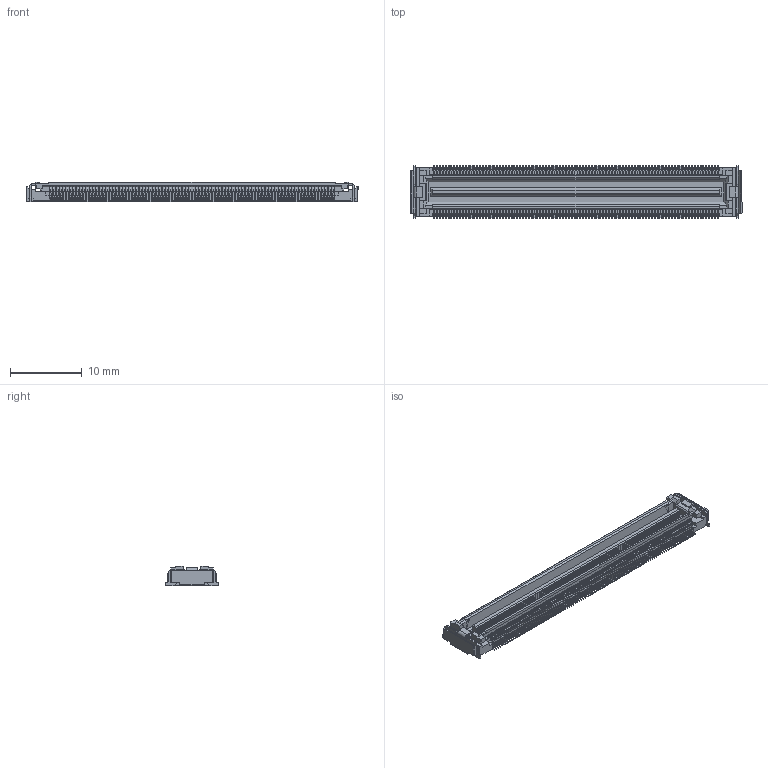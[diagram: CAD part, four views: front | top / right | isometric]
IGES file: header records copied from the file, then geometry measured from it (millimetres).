
Start section: Elysium IGES Interface
Global section: file name: 134H\\Honsha3\ko_gi\登録\KONEGI\62期\第三技術部\設計共有\DUSxx-xxxS-3\量産開発\3D\客先提出用3D\P3E548_DUS00-200S-T\P3E548_DUS00-200S-T.igs; native system: Creo Elements/Direct Modeling 20.6  25-Mar-2023; preprocessor: Creo Element/Direct IGES_3D V2.2; author: Unknown; organization: Unknown; date: 20240322.112528; units: millimetre
Bounding box: 46.38 x 7.4 x 2.71 mm (x, y, z)
Volume: 395.7 mm3; surface area: 1614.8 mm2
Topology: 1 solids, 1 shells, 9044 faces, 25292 edges, 16052 vertices
Faces by surface type: bspline 9044
